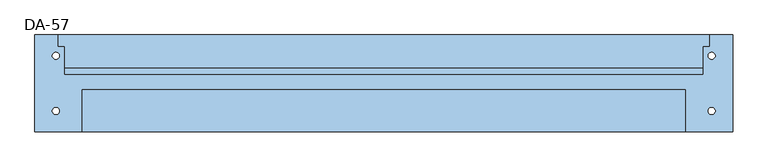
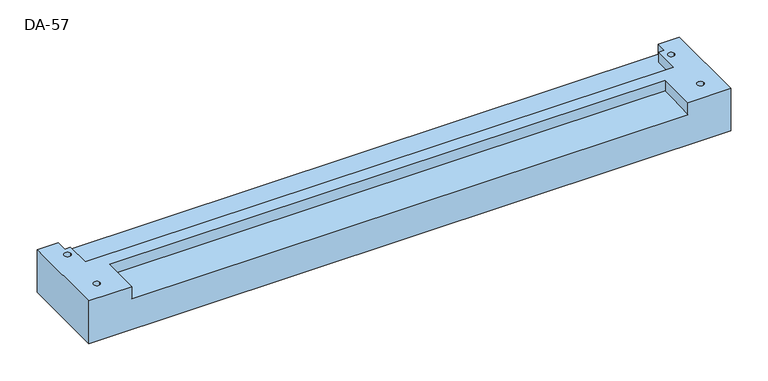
"""IFC4 building model written with IfcOpenShell, lengths in millimetres: window geometry, 30_NS_DA_51-57 : DA-57."""

from ifc_helpers import new_model, si_unit, frame, origin, place, context, project, spatial, polyline, circle_curve, source, transform, mapped, element, save
from ifc_brep_helpers import plane_surface, revolved_surface, advanced_brep


def da_57_4bec37a1(model_context):
    return source(origin(), model_context, "Body", "AdvancedBrep", [
        advanced_brep(
        [(0.0, -139.0, 0.0), (0.0, 0.0, 0.0), (1000.0, 0.0, 0.0), (1000.0, -139.0, 0.0), (25.0, -109.0, 0.0), (35.0, -109.0, 0.0), (965.0, -30.0, 0.0), (975.0, -30.0, 0.0), (965.0, -109.0, 0.0), (975.0, -109.0, 0.0), (25.0, -30.0, 0.0), (35.0, -30.0, 0.0), (0.0, -139.0, 70.0), (67.0, -139.0, 70.0), (67.0, -78.0, 70.0), (933.0, -78.0, 70.0), (933.0, -139.0, 70.0), (1000.0, -139.0, 70.0), (1000.0, 0.0, 70.0), (967.0, 0.0, 70.0), (967.0, -17.0090174, 70.0), (958.0, -17.0090174, 70.0), (958.0, -57.0, 70.0), (42.0, -57.0, 70.0), (42.0, -17.0090174, 70.0), (33.0, -17.0090174, 70.0), (33.0, 0.0, 70.0), (0.0, 0.0, 70.0), (35.0, -109.0, 70.0), (25.0, -109.0, 70.0), (975.0, -30.0, 70.0), (965.0, -30.0, 70.0), (975.0, -109.0, 70.0), (965.0, -109.0, 70.0), (35.0, -30.0, 70.0), (25.0, -30.0, 70.0), (67.0, -78.0, 52.0831202), (67.0, -139.0, 50.2493606), (933.0, -139.0, 50.2493606), (933.0, -78.0, 52.0831202), (42.0, -47.0, 48.0), (42.0, -57.0, 48.0), (933.0, -57.0, 48.0), (958.0, -57.0, 48.0), (958.0, -47.0, 48.0), (42.0, -47.0, 53.0), (958.0, -47.0, 53.0), (958.0, -17.0090174, 53.0), (967.0, -17.0090174, 53.0), (967.0, 0.0, 53.0), (33.0, 0.0, 53.0), (33.0, -17.0090174, 53.0), (42.0, -17.0090174, 53.0)],
        [
            (0, 1),
            (1, 2),
            (2, 3),
            (3, 0),
            (4, 5, circle_curve(frame((30.0, -109.0, 0.0), z_axis=(0.0, 0.0, 1.0), x_axis=(1.0, 0.0, 0.0)), 5.0)),
            (5, 4, circle_curve(frame((30.0, -109.0, 0.0), z_axis=(0.0, 0.0, 1.0), x_axis=(1.0, 0.0, 0.0)), 5.0)),
            (6, 7, circle_curve(frame((970.0, -30.0, 0.0), z_axis=(0.0, 0.0, 1.0), x_axis=(1.0, 0.0, 0.0)), 5.0)),
            (7, 6, circle_curve(frame((970.0, -30.0, 0.0), z_axis=(0.0, 0.0, 1.0), x_axis=(1.0, 0.0, 0.0)), 5.0)),
            (8, 9, circle_curve(frame((970.0, -109.0, 0.0), z_axis=(0.0, 0.0, 1.0), x_axis=(1.0, 0.0, 0.0)), 5.0)),
            (9, 8, circle_curve(frame((970.0, -109.0, 0.0), z_axis=(0.0, 0.0, 1.0), x_axis=(1.0, 0.0, 0.0)), 5.0)),
            (10, 11, circle_curve(frame((30.0, -30.0, 0.0), z_axis=(0.0, 0.0, 1.0), x_axis=(1.0, 0.0, 0.0)), 5.0)),
            (11, 10, circle_curve(frame((30.0, -30.0, 0.0), z_axis=(0.0, 0.0, 1.0), x_axis=(1.0, 0.0, 0.0)), 5.0)),
            (12, 13),
            (13, 14),
            (14, 15),
            (15, 16),
            (16, 17),
            (17, 18),
            (18, 19),
            (19, 20),
            (20, 21),
            (21, 22),
            (22, 23),
            (23, 24),
            (24, 25),
            (25, 26),
            (26, 27),
            (27, 12),
            (28, 29, circle_curve(frame((30.0, -109.0, 70.0), z_axis=(0.0, 0.0, -1.0), x_axis=(1.0, 0.0, 0.0)), 5.0)),
            (29, 28, circle_curve(frame((30.0, -109.0, 70.0), z_axis=(0.0, 0.0, -1.0), x_axis=(1.0, 0.0, 0.0)), 5.0)),
            (30, 31, circle_curve(frame((970.0, -30.0, 70.0), z_axis=(0.0, 0.0, -1.0), x_axis=(1.0, 0.0, 0.0)), 5.0)),
            (31, 30, circle_curve(frame((970.0, -30.0, 70.0), z_axis=(0.0, 0.0, -1.0), x_axis=(1.0, 0.0, 0.0)), 5.0)),
            (32, 33, circle_curve(frame((970.0, -109.0, 70.0), z_axis=(0.0, 0.0, -1.0), x_axis=(1.0, 0.0, 0.0)), 5.0)),
            (33, 32, circle_curve(frame((970.0, -109.0, 70.0), z_axis=(0.0, 0.0, -1.0), x_axis=(1.0, 0.0, 0.0)), 5.0)),
            (34, 35, circle_curve(frame((30.0, -30.0, 70.0), z_axis=(0.0, 0.0, -1.0), x_axis=(1.0, 0.0, 0.0)), 5.0)),
            (35, 34, circle_curve(frame((30.0, -30.0, 70.0), z_axis=(0.0, 0.0, -1.0), x_axis=(1.0, 0.0, 0.0)), 5.0)),
            (2, 18),
            (17, 3),
            (36, 37),
            (37, 38),
            (38, 39),
            (39, 36),
            (14, 36),
            (39, 15),
            (40, 41),
            (41, 42),
            (42, 43),
            (43, 44),
            (44, 40),
            (45, 40),
            (44, 46),
            (46, 45),
            (46, 47),
            (47, 48),
            (48, 49),
            (49, 50),
            (50, 51),
            (51, 52),
            (52, 45),
            (50, 26),
            (25, 51),
            (24, 52),
            (47, 21),
            (20, 48),
            (19, 49),
            (23, 41),
            (22, 43),
            (13, 37),
            (12, 0),
            (16, 38),
            (27, 1),
            (4, 29),
            (28, 5),
            (6, 31),
            (30, 7),
            (8, 33),
            (32, 9),
            (10, 35),
            (34, 11),
        ],
        [
            plane_surface(frame((0.0, 0.0, 0.0), z_axis=(0.0, 0.0, -1.0), x_axis=(1.0, 0.0, 0.0))),
            plane_surface(frame((0.0, 0.0, 70.0), z_axis=(0.0, 0.0, 1.0), x_axis=(1.0, 0.0, 0.0))),
            plane_surface(frame((1000.0, 0.0, 0.0), z_axis=(1.0, 0.0, 0.0), x_axis=(0.0, 0.0, 1.0))),
            plane_surface(frame((0.0, -139.0, 50.2493606), z_axis=(0.0, -0.030048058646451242, 0.9995484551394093), x_axis=(1.0, 0.0, 0.0))),
            plane_surface(frame((0.0, -78.0, 52.0831202), z_axis=(0.0, -1.0, 0.0), x_axis=(1.0, 0.0, 0.0))),
            plane_surface(frame((0.0, -57.0, 48.0), z_axis=(0.0, 0.0, 1.0), x_axis=(1.0, 0.0, 0.0))),
            plane_surface(frame((0.0, -47.0, 48.0), z_axis=(0.0, -1.0, 0.0), x_axis=(1.0, 0.0, 0.0))),
            plane_surface(frame((0.0, -47.0, 53.0), z_axis=(0.0, 0.0, 1.0), x_axis=(1.0, 0.0, 0.0))),
            plane_surface(frame((33.0, 0.0, 153.0), z_axis=(1.0, 0.0, 0.0), x_axis=(0.0, 0.0, -1.0))),
            plane_surface(frame((33.0, -17.0090174, 153.0), z_axis=(0.0, 1.0, 0.0), x_axis=(0.0, 0.0, -1.0))),
            plane_surface(frame((958.0, -17.0090174, 153.0), z_axis=(0.0, 1.0, 0.0), x_axis=(0.0, 0.0, -1.0))),
            plane_surface(frame((967.0, -17.0090174, 153.0), z_axis=(-1.0, 0.0, 0.0), x_axis=(0.0, 0.0, -1.0))),
            plane_surface(frame((42.0, 0.0, 0.0), z_axis=(1.0, 0.0, 0.0), x_axis=(0.0, 0.0, 1.0))),
            plane_surface(frame((42.0, -57.0, 0.0), z_axis=(0.0, 1.0, 0.0), x_axis=(0.0, 0.0, 1.0))),
            plane_surface(frame((67.0, -57.0, 0.0), z_axis=(1.0, 0.0, 0.0), x_axis=(0.0, 0.0, 1.0))),
            plane_surface(frame((67.0, -139.0, 0.0), z_axis=(0.0, -1.0, 0.0), x_axis=(0.0, 0.0, 1.0))),
            plane_surface(frame((0.0, -139.0, 0.0), z_axis=(-1.0, 0.0, 0.0), x_axis=(0.0, 0.0, 1.0))),
            plane_surface(frame((0.0, 0.0, 0.0), z_axis=(0.0, 1.0, 0.0), x_axis=(0.0, 0.0, 1.0))),
            plane_surface(frame((933.0, -139.0, 0.0), z_axis=(-1.0, 0.0, 0.0), x_axis=(0.0, 0.0, 1.0))),
            plane_surface(frame((958.0, -57.0, 0.0), z_axis=(-1.0, 0.0, 0.0), x_axis=(0.0, 0.0, 1.0))),
            revolved_surface(polyline([(35.0, -109.0, 0.0), (35.0, -109.0, 70.0)]), (30.0, -109.0, 0.0), (0.0, 0.0, -1.0)),
            revolved_surface(polyline([(975.0, -30.0, 0.0), (975.0, -30.0, 70.0)]), (970.0, -30.0, 0.0), (0.0, 0.0, -1.0)),
            revolved_surface(polyline([(975.0, -109.0, 0.0), (975.0, -109.0, 70.0)]), (970.0, -109.0, 0.0), (0.0, 0.0, -1.0)),
            revolved_surface(polyline([(35.0, -30.0, 0.0), (35.0, -30.0, 70.0)]), (30.0, -30.0, 0.0), (0.0, 0.0, -1.0)),
        ],
        [
            (0, [[1, 2, 3, 4], [5, 6], [7, 8], [9, 10], [11, 12]]),
            (1, [[13, 14, 15, 16, 17, 18, 19, 20, 21, 22, 23, 24, 25, 26, 27, 28], [29, 30], [31, 32], [33, 34], [35, 36]]),
            (2, [[-3, 37, -18, 38]]),
            (3, [[39, 40, 41, 42]]),
            (4, [[43, -42, 44, -15]]),
            (5, [[45, 46, 47, 48, 49]]),
            (6, [[50, -49, 51, 52]]),
            (7, [[-52, 53, 54, 55, 56, 57, 58, 59]]),
            (8, [[-57, 60, -26, 61]]),
            (9, [[-58, -61, -25, 62]]),
            (10, [[-54, 63, -21, 64]]),
            (11, [[-55, -64, -20, 65]]),
            (12, [[66, -45, -50, -59, -62, -24]]),
            (13, [[-66, -23, 67, -47, -46]]),
            (14, [[-14, 68, -39, -43]]),
            (15, [[-13, 69, -4, -38, -17, 70, -40, -68]]),
            (16, [[-1, -69, -28, 71]]),
            (17, [[-71, -27, -60, -56, -65, -19, -37, -2]]),
            (18, [[-16, -44, -41, -70]]),
            (19, [[-67, -22, -63, -53, -51, -48]]),
            (20, [[72, -29, 73, -5]]),
            (20, [[-72, -6, -73, -30]]),
            (21, [[74, -31, 75, -7]]),
            (21, [[-74, -8, -75, -32]]),
            (22, [[76, -33, 77, -9]]),
            (22, [[-76, -10, -77, -34]]),
            (23, [[78, -35, 79, -11]]),
            (23, [[-78, -12, -79, -36]]),
        ],
    ),
    ])


if __name__ == "__main__":
    model = new_model("IFC4")
    model_context = context("Model", 3, world=origin())
    ifc_project = project(units=[si_unit("LENGTHUNIT", "METRE", prefix="MILLI")], contexts=[model_context])
    site = spatial("IfcSite", under=ifc_project)
    building = spatial("IfcBuilding", under=site)
    placement = place(None, origin())
    da_57_shape = da_57_4bec37a1(model_context)
    element("IfcWindow", 1, ObjectType="30_NS_DA_51-57 : DA-57", at=placement, inside=building, context=model_context, shape_type="MappedRepresentation", body=[
        mapped(da_57_shape, transform((0.0, 0.0, 0.0), x_axis=(1.0, 0.0, 0.0), y_axis=(0.0, 1.0, 0.0), z_axis=(0.0, 0.0, 1.0))),
    ])
    save(model, "model.ifc")
